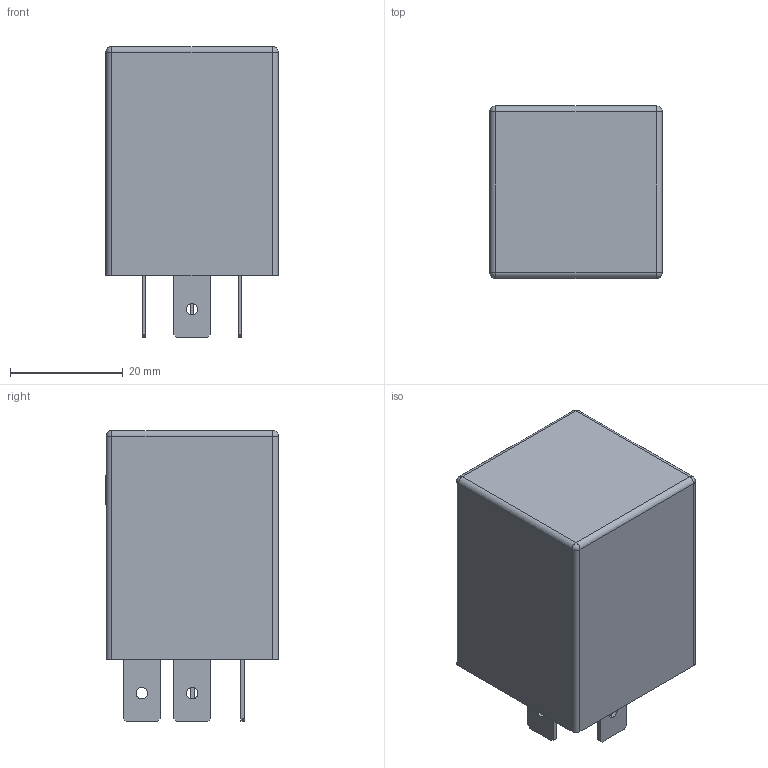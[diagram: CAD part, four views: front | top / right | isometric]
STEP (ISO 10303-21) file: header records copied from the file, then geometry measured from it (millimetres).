
FILE_DESCRIPTION(('CATIA V5 STEP Exchange','CAx-IF Rec.Pracs.--- Model Styling and Organization---1.5--- 2016-08-15','CAx-IF Rec.Pracs.---Supplemental Geometry---1.0---2011-11-01','CAx-IF Rec.Pracs.--- Composite Materials ---1.1---2010-07-15'),'2;1');
FILE_NAME('E:\tmp\ddx\2011226\HELLA_3D_data_Simulation_device_for_cold_check_5DS-009-602-011.stp','2022-01-18T07:35:22+00:00',('none'),('none'),'CATIA Version 5-6 Release 2020 SP3 HF9','CATIA V5 STEP AP214 Edition 3 v2','none');
FILE_SCHEMA(('AUTOMOTIVE_DESIGN { 1 0 10303 214 3 1 1 1 }'));
Length unit declared in the file: millimetre
Products named in the file (1): 10000659724_D10_001
Bounding box: 30.5 x 30.6 x 51.5 mm (x, y, z)
Volume: 37855 mm3; surface area: 7465.5 mm2
Topology: 1 solids, 1 shells, 128 faces, 328 edges, 212 vertices
Faces by surface type: plane 78, extrusion 28, cylinder 18, sphere 4
Entity records: 3891 total; most frequent: CARTESIAN_POINT 818, ORIENTED_EDGE 648, DIRECTION 544, EDGE_CURVE 324, VECTOR 260, LINE 232, VERTEX_POINT 212, AXIS2_PLACEMENT_3D 161
